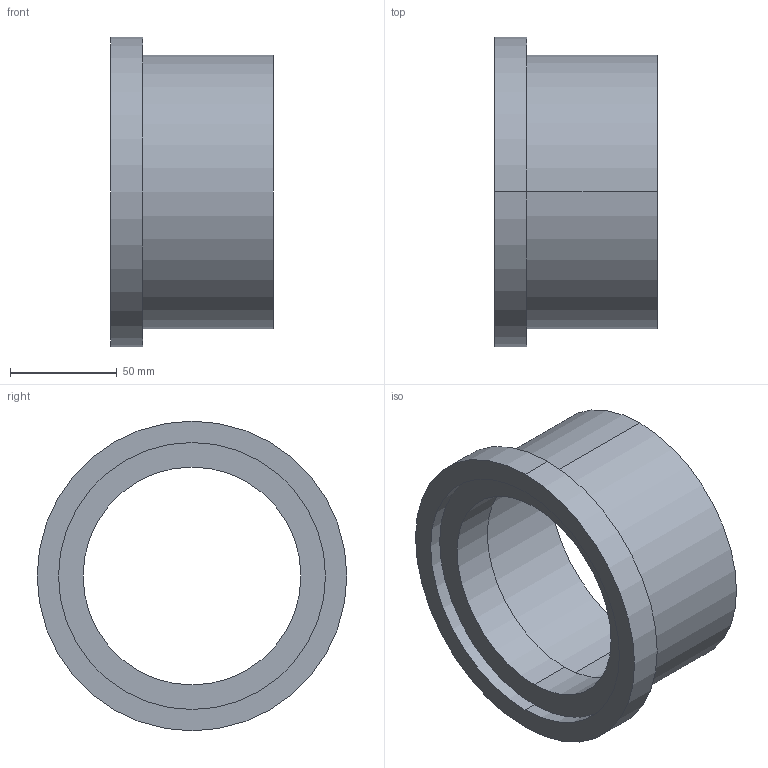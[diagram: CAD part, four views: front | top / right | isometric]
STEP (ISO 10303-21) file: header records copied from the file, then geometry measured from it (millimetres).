
FILE_DESCRIPTION (( 'STEP AP203' ), '1' );
FILE_NAME ('4 (4 鋼管用).STEP', '2014-07-15T01:12:13', ( 'jameswang' ), ( '' ), 'SwSTEP 2.0', 'SolidWorks 2013', '' );
FILE_SCHEMA (( 'CONFIG_CONTROL_DESIGN' ));
Length unit declared in the file: millimetre
Products named in the file (1): 4 (4 鋼管用)
Bounding box: 76 x 145 x 145 mm (x, y, z)
Volume: 270155.5 mm3; surface area: 74199.8 mm2
Topology: 1 solids, 1 shells, 19 faces, 38 edges, 24 vertices
Faces by surface type: cylinder 10, plane 5, cone 2, torus 2
Entity records: 587 total; most frequent: DIRECTION 104, CARTESIAN_POINT 82, ORIENTED_EDGE 76, AXIS2_PLACEMENT_3D 46, EDGE_CURVE 38, CIRCLE 26, VERTEX_POINT 24, EDGE_LOOP 24
